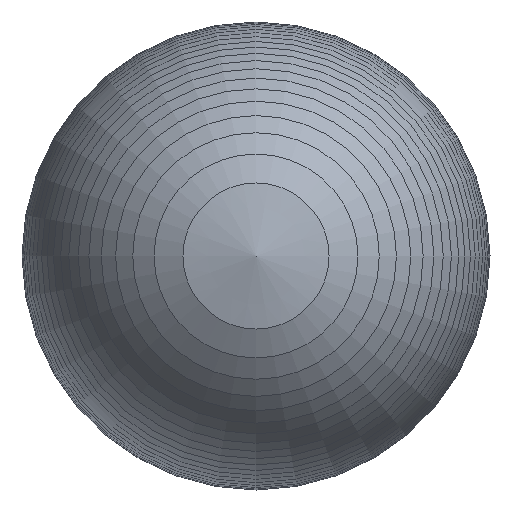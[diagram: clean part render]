
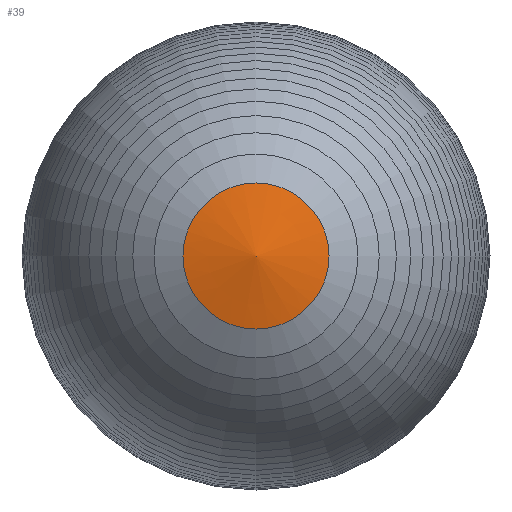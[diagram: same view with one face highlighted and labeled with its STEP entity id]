
A CAD part, left-side view. The second image highlights one B-rep face of the part: STEP entity #39.
In plain terms, the highlighted conical face has half-angle 78.326 degrees and reference radius 0 mm.
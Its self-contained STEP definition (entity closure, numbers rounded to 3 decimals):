
#39 = ADVANCED_FACE('',(#40),#54,.T.);
#40 = FACE_BOUND('',#41,.T.);
#41 = EDGE_LOOP('',(#42,#72,#99));
#42 = ORIENTED_EDGE('',*,*,#43,.T.);
#43 = EDGE_CURVE('',#44,#46,#48,.T.);
#44 = VERTEX_POINT('',#45);
#45 = CARTESIAN_POINT('',(0.,0.,0.));
#46 = VERTEX_POINT('',#47);
#47 = CARTESIAN_POINT('',(4.,19.359,0.));
#48 = SEAM_CURVE('',#49,(#53,#65),.PCURVE_S1.);
#49 = LINE('',#50,#51);
#50 = CARTESIAN_POINT('',(0.,0.,0.));
#51 = VECTOR('',#52,1.);
#52 = DIRECTION('',(0.202,0.979,0.));
#53 = PCURVE('',#54,#59);
#54 = CONICAL_SURFACE('',#55,0.,1.367);
#55 = AXIS2_PLACEMENT_3D('',#56,#57,#58);
#56 = CARTESIAN_POINT('',(0.,0.,0.));
#57 = DIRECTION('',(1.,0.,0.));
#58 = DIRECTION('',(-0.,1.,0.));
#59 = DEFINITIONAL_REPRESENTATION('',(#60),#64);
#60 = LINE('',#61,#62);
#61 = CARTESIAN_POINT('',(0.,0.));
#62 = VECTOR('',#63,1.);
#63 = DIRECTION('',(0.,1.));
#64 = ( GEOMETRIC_REPRESENTATION_CONTEXT(2) 
PARAMETRIC_REPRESENTATION_CONTEXT() REPRESENTATION_CONTEXT('2D SPACE',''
  ) );
#65 = PCURVE('',#54,#66);
#66 = DEFINITIONAL_REPRESENTATION('',(#67),#71);
#67 = LINE('',#68,#69);
#68 = CARTESIAN_POINT('',(6.283,0.));
#69 = VECTOR('',#70,1.);
#70 = DIRECTION('',(0.,1.));
#71 = ( GEOMETRIC_REPRESENTATION_CONTEXT(2) 
PARAMETRIC_REPRESENTATION_CONTEXT() REPRESENTATION_CONTEXT('2D SPACE',''
  ) );
#72 = ORIENTED_EDGE('',*,*,#73,.F.);
#73 = EDGE_CURVE('',#46,#46,#74,.T.);
#74 = SURFACE_CURVE('',#75,(#80,#87),.PCURVE_S1.);
#75 = CIRCLE('',#76,19.359);
#76 = AXIS2_PLACEMENT_3D('',#77,#78,#79);
#77 = CARTESIAN_POINT('',(4.,0.,0.));
#78 = DIRECTION('',(1.,0.,0.));
#79 = DIRECTION('',(-0.,1.,0.));
#80 = PCURVE('',#54,#81);
#81 = DEFINITIONAL_REPRESENTATION('',(#82),#86);
#82 = LINE('',#83,#84);
#83 = CARTESIAN_POINT('',(0.,4.));
#84 = VECTOR('',#85,1.);
#85 = DIRECTION('',(1.,0.));
#86 = ( GEOMETRIC_REPRESENTATION_CONTEXT(2) 
PARAMETRIC_REPRESENTATION_CONTEXT() REPRESENTATION_CONTEXT('2D SPACE',''
  ) );
#87 = PCURVE('',#88,#93);
#88 = CONICAL_SURFACE('',#89,19.359,1.09);
#89 = AXIS2_PLACEMENT_3D('',#90,#91,#92);
#90 = CARTESIAN_POINT('',(4.,0.,0.));
#91 = DIRECTION('',(1.,0.,0.));
#92 = DIRECTION('',(-0.,1.,0.));
#93 = DEFINITIONAL_REPRESENTATION('',(#94),#98);
#94 = LINE('',#95,#96);
#95 = CARTESIAN_POINT('',(0.,0.));
#96 = VECTOR('',#97,1.);
#97 = DIRECTION('',(1.,0.));
#98 = ( GEOMETRIC_REPRESENTATION_CONTEXT(2) 
PARAMETRIC_REPRESENTATION_CONTEXT() REPRESENTATION_CONTEXT('2D SPACE',''
  ) );
#99 = ORIENTED_EDGE('',*,*,#43,.F.);
